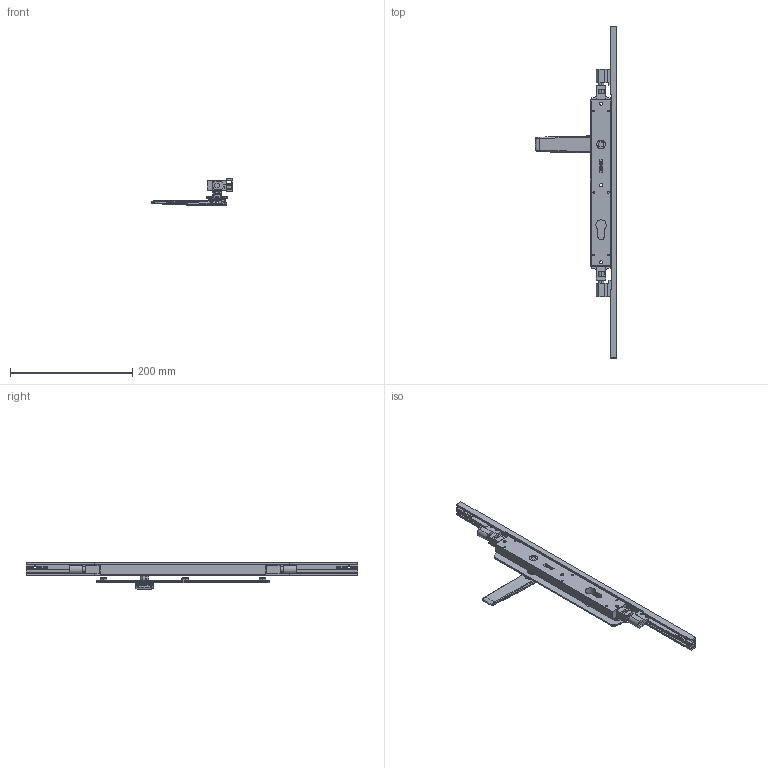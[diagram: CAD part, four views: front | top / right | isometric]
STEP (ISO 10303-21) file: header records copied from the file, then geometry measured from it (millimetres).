
FILE_DESCRIPTION (( 'STEP AP214' ), '1' );
FILE_NAME ('TPL-W-APC-606-U 28Oct2024.STEP', '2024-10-28T01:52:54', ( '' ), ( '' ), 'SwSTEP 2.0', 'SolidWorks 2023', '' );
FILE_SCHEMA (( 'AUTOMOTIVE_DESIGN' ));
Length unit declared in the file: millimetre
Products named in the file (18): TPL-W-APC-606-U 28Oct2024; Copy of TPLGen2 lock body keyed^Copy of TPLGen2 lock body keyed assembly_TPL-W-APC-106 18Oct2024; Copy of LKC-586 Spindle square 8mm with M4 hole^Copy of TPGen2 handle non-keyed long zinc - simplified_TPL-W-APC-106 18Oct2024_25mm; Copy of TPLGen2 lock body keyed assembly^TPL-W-APC-106 18Oct2024_Bolts retracted; Copy of LKC-583 Escutcheon plate unkeyed 285mm long zinc - simplified^Copy of TPGen2 handle non-keyed long zinc - simplified_TPL-W-APC-106 18Oct2024; Copy of TPGen2 handle non-keyed long zinc - simplified^TPL-W-APC-106 18Oct2024_Right; Copy of COV-115-A Cover A suit TPLGen2 standard range AU with hinge holes^TPL-W-APC-106 18Oct2024_1335mm; Bolt.step; Copy of LKC-505 Swing handle zinc - simplified^Copy of TPGen2 handle non-keyed long zinc - simplified_TPL-W-APC-106 18Oct2024; Copy of LKC-531 Lock twinpoint transmission rod wood system^TPL-W-APC-106 18Oct2024_Standard Range (588.7mm); Adapter D - simplfied^TPL-W-APC-106 18Oct2024; Copy of LKC-585 Rotator body zinc^Copy of TPGen2 handle non-keyed long zinc - simplified_TPL-W-APC-106 18Oct2024; Copy of TPLGen2 push rod - simplified^Copy of TPLGen2 lock body keyed assembly_TPL-W-APC-106 18Oct2024_Female thread M10; Copy of LKC-584 Pivot body zinc - simplified^Copy of TPGen2 handle non-keyed long zinc - simplified_TPL-W-APC-106 18Oct2024; Copy of COV-115-B Cover B suit TPLGen2 standard range AU with hinge holes^TPL-W-APC-106 18Oct2024_2870mm; Copy of Copy of LKC-531 Lock twinpoint transmission rod wood system^TPL-W-APC-106 18Oct2024_Standard Range 2891.7mm; Copy of COV-115-C Cover C suit TPLGen2 standard range AU^TPL-W-APC-106 18Oct2024; Adapter C - simplfied^TPL-W-APC-106 18Oct2024
Assembly tree (15 placements, depth 3):
  TPL-W-APC-606-U 28Oct2024
    Copy of TPLGen2 lock body keyed assembly^TPL-W-APC-106 18Oct2024_Bolts retracted
      Copy of TPLGen2 lock body keyed^Copy of TPLGen2 lock body keyed assembly_TPL-W-APC-106 18Oct2024
      Copy of TPLGen2 push rod - simplified^Copy of TPLGen2 lock body keyed assembly_TPL-W-APC-106 18Oct2024_Female thread M10  x2
    Copy of TPGen2 handle non-keyed long zinc - simplified^TPL-W-APC-106 18Oct2024_Right
      Copy of LKC-583 Escutcheon plate unkeyed 285mm long zinc - simplified^Copy of TPGen2 handle non-keyed long zinc - simplified_TPL-W-APC-106 18Oct2024
      Copy of LKC-505 Swing handle zinc - simplified^Copy of TPGen2 handle non-keyed long zinc - simplified_TPL-W-APC-106 18Oct2024
      Copy of LKC-585 Rotator body zinc^Copy of TPGen2 handle non-keyed long zinc - simplified_TPL-W-APC-106 18Oct2024
      Copy of LKC-586 Spindle square 8mm with M4 hole^Copy of TPGen2 handle non-keyed long zinc - simplified_TPL-W-APC-106 18Oct2024_25mm
      Copy of LKC-584 Pivot body zinc - simplified^Copy of TPGen2 handle non-keyed long zinc - simplified_TPL-W-APC-106 18Oct2024
    Copy of LKC-531 Lock twinpoint transmission rod wood system^TPL-W-APC-106 18Oct2024_Standard Range (588.7mm)
    Copy of Copy of LKC-531 Lock twinpoint transmission rod wood system^TPL-W-APC-106 18Oct2024_Standard Range 2891.7mm
    Copy of COV-115-C Cover C suit TPLGen2 standard range AU^TPL-W-APC-106 18Oct2024
    Adapter C - simplfied^TPL-W-APC-106 18Oct2024
    Adapter D - simplfied^TPL-W-APC-106 18Oct2024
  Copy of COV-115-A Cover A suit TPLGen2 standard range AU with hinge holes^TPL-W-APC-106 18Oct2024_1335mm
  Bolt.step
  Copy of COV-115-B Cover B suit TPLGen2 standard range AU with hinge holes^TPL-W-APC-106 18Oct2024_2870mm
Bounding box: 134.12 x 544 x 43.26 mm (x, y, z)
Volume: 264719.4 mm3; surface area: 129906.8 mm2
Topology: 13 solids, 13 shells, 881 faces, 2169 edges, 1348 vertices
Faces by surface type: plane 306, bspline 241, cylinder 204, cone 70, torus 52, sphere 8
Entity records: 31606 total; most frequent: CARTESIAN_POINT 12733, ORIENTED_EDGE 4146, DIRECTION 3383, EDGE_CURVE 2073, VERTEX_POINT 1288, AXIS2_PLACEMENT_3D 1244, EDGE_LOOP 941, LINE 895
